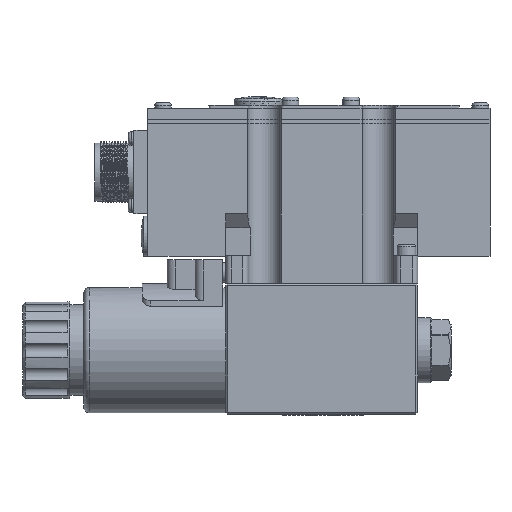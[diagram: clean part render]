
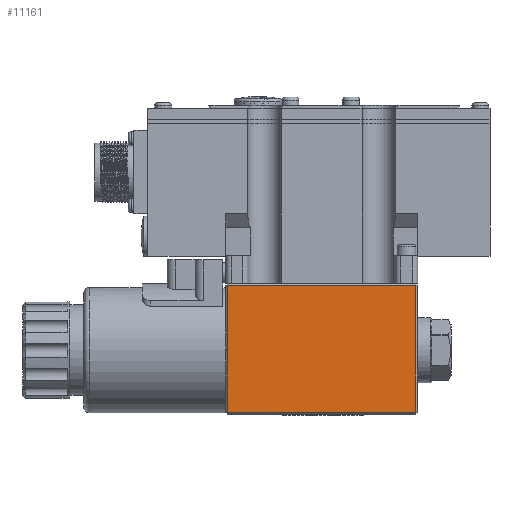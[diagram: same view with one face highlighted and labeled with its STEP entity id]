
A CAD part, front view. The second image highlights one B-rep face of the part: STEP entity #11161.
In plain terms, the highlighted planar face has unit normal (0, -1, 0).
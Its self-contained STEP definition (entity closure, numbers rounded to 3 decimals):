
#546=FACE_OUTER_BOUND('',#3587,.T.);
#1218=PLANE('',#13612);
#1643=LINE('',#18921,#2493);
#1644=LINE('',#18924,#2494);
#1645=LINE('',#18926,#2495);
#1646=LINE('',#18928,#2496);
#2493=VECTOR('',#15064,1.);
#2494=VECTOR('',#15065,1.);
#2495=VECTOR('',#15066,1.);
#2496=VECTOR('',#15067,1.);
#3587=EDGE_LOOP('',(#4613,#4614,#4615,#4616));
#4613=ORIENTED_EDGE('',*,*,#8205,.T.);
#4614=ORIENTED_EDGE('',*,*,#8206,.T.);
#4615=ORIENTED_EDGE('',*,*,#8207,.T.);
#4616=ORIENTED_EDGE('',*,*,#8208,.T.);
#8205=EDGE_CURVE('',#12449,#12450,#1643,.T.);
#8206=EDGE_CURVE('',#12450,#12451,#1644,.T.);
#8207=EDGE_CURVE('',#12451,#12452,#1645,.T.);
#8208=EDGE_CURVE('',#12452,#12449,#1646,.T.);
#11161=ADVANCED_FACE('',(#546),#1218,.T.);
#12449=VERTEX_POINT('',#18922);
#12450=VERTEX_POINT('',#18923);
#12451=VERTEX_POINT('',#18925);
#12452=VERTEX_POINT('',#18927);
#13612=AXIS2_PLACEMENT_3D('',#18929,#15068,#15069);
#15064=DIRECTION('',(0.,0.,-1.));
#15065=DIRECTION('',(1.,0.,0.));
#15066=DIRECTION('',(0.,0.,1.));
#15067=DIRECTION('',(-1.,0.,0.));
#15068=DIRECTION('',(0.,-1.,0.));
#15069=DIRECTION('',(0.,0.,1.));
#18921=CARTESIAN_POINT('',(0.7,-22.,-23.));
#18922=CARTESIAN_POINT('',(0.7,-22.,23.3));
#18923=CARTESIAN_POINT('',(0.7,-22.,-22.3));
#18924=CARTESIAN_POINT('',(34.5,-22.,-22.3));
#18925=CARTESIAN_POINT('',(68.3,-22.,-22.3));
#18926=CARTESIAN_POINT('',(68.3,-22.,-23.));
#18927=CARTESIAN_POINT('',(68.3,-22.,23.3));
#18928=CARTESIAN_POINT('',(34.5,-22.,23.3));
#18929=CARTESIAN_POINT('',(34.5,-22.,-23.));
